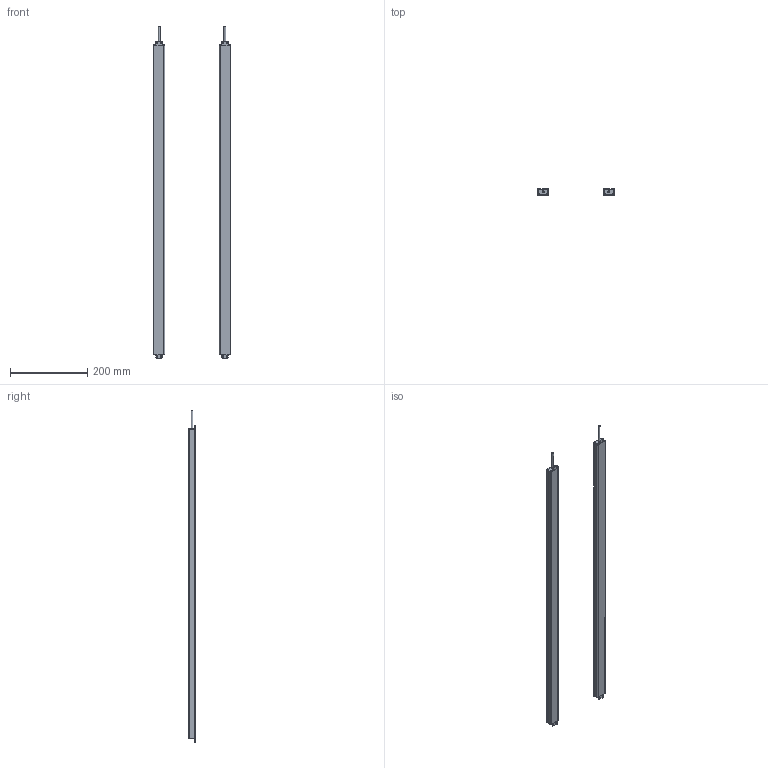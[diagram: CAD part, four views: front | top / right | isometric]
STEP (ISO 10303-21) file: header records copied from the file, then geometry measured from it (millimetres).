
FILE_DESCRIPTION(/* description */ (''),/* implementation_level */ '2;1');
FILE_NAME(/* name */ '4020（16X30ZW).stp',/* time_stamp */ '2020-07-14T19:19:41+08:00',/* author */ (''),/* organization */ (''),/* preprocessor_version */ 'ST-DEVELOPER v16',/* originating_system */ 'SIEMENS PLM Software NX 10.0',/* authorisation */ '');
FILE_SCHEMA (('AP203_CONFIGURATION_CONTROLLED_3D_DESIGN_OF_MECHANICAL_PARTS_AND_ASSEMBLIES_MIM_LF { 1 0 10303 403 2 1 2}'));
Length unit declared in the file: millimetre
Products named in the file (1): Admi58A03253m7jc
Bounding box: 200 x 16 x 861.5 mm (x, y, z)
Volume: 230461 mm3; surface area: 340097.6 mm2
Topology: 10 solids, 10 shells, 296 faces, 830 edges, 554 vertices
Faces by surface type: plane 160, cylinder 136
Full cylindrical faces by diameter (mm): 5 x2
Entity records: 9760 total; most frequent: DIRECTION 1692, CARTESIAN_POINT 1675, ORIENTED_EDGE 1652, EDGE_CURVE 826, AXIS2_PLACEMENT_3D 569, LINE 554, VECTOR 554, VERTEX_POINT 552
